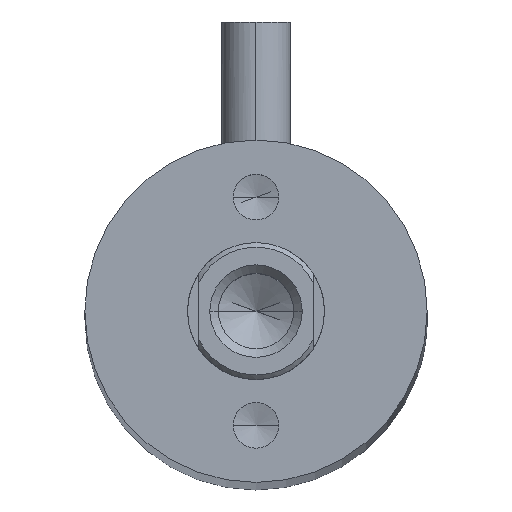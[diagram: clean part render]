
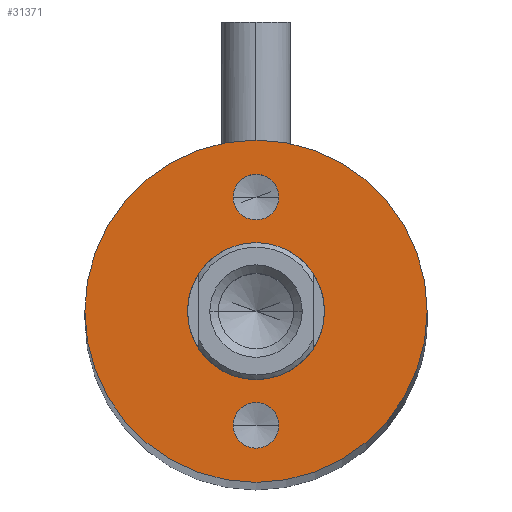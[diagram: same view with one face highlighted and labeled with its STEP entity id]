
A CAD part, top view. The second image highlights one B-rep face of the part: STEP entity #31371.
In plain terms, the highlighted planar face has unit normal (0, 0, 1).
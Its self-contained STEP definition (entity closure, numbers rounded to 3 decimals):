
#211 = DIRECTION ( 'NONE',  ( 1., 0., 0. ) ) ;
#239 = CIRCLE ( 'NONE', #42750, 1. ) ;
#240 = CARTESIAN_POINT ( 'NONE',  ( 1., -5., 190.6 ) ) ;
#724 = CIRCLE ( 'NONE', #9421, 1. ) ;
#1737 = EDGE_CURVE ( 'NONE', #18841, #3385, #37742, .T. ) ;
#1860 = CARTESIAN_POINT ( 'NONE',  ( 0., 0., 190.6 ) ) ;
#1903 = VERTEX_POINT ( 'NONE', #39515 ) ;
#2133 = CIRCLE ( 'NONE', #6013, 1. ) ;
#3385 = VERTEX_POINT ( 'NONE', #23049 ) ;
#3704 = ORIENTED_EDGE ( 'NONE', *, *, #13350, .T. ) ;
#3890 = DIRECTION ( 'NONE',  ( 0., 0., 1. ) ) ;
#5024 = DIRECTION ( 'NONE',  ( 0., 0., 1. ) ) ;
#6013 = AXIS2_PLACEMENT_3D ( 'NONE', #48346, #8730, #44148 ) ;
#6644 = FACE_BOUND ( 'NONE', #19864, .T. ) ;
#6943 = EDGE_CURVE ( 'NONE', #17374, #44598, #2133, .T. ) ;
#7237 = FACE_BOUND ( 'NONE', #21769, .T. ) ;
#7920 = EDGE_CURVE ( 'NONE', #44598, #17374, #239, .T. ) ;
#8730 = DIRECTION ( 'NONE',  ( 0., 0., 1. ) ) ;
#8747 = AXIS2_PLACEMENT_3D ( 'NONE', #28852, #12896, #29187 ) ;
#9421 = AXIS2_PLACEMENT_3D ( 'NONE', #27474, #31472, #23794 ) ;
#10873 = CIRCLE ( 'NONE', #36451, 3. ) ;
#11389 = DIRECTION ( 'NONE',  ( 1., 0., 0. ) ) ;
#11987 = DIRECTION ( 'NONE',  ( 1., 0., 0. ) ) ;
#12896 = DIRECTION ( 'NONE',  ( 0., 0., 1. ) ) ;
#13350 = EDGE_CURVE ( 'NONE', #29221, #43808, #16940, .T. ) ;
#16935 = EDGE_CURVE ( 'NONE', #1903, #29231, #17510, .T. ) ;
#16940 = CIRCLE ( 'NONE', #8747, 7.5 ) ;
#17251 = EDGE_CURVE ( 'NONE', #3385, #18841, #724, .T. ) ;
#17374 = VERTEX_POINT ( 'NONE', #40489 ) ;
#17510 = CIRCLE ( 'NONE', #29908, 3. ) ;
#18841 = VERTEX_POINT ( 'NONE', #23398 ) ;
#19774 = FACE_OUTER_BOUND ( 'NONE', #36787, .T. ) ;
#19789 = AXIS2_PLACEMENT_3D ( 'NONE', #41454, #5024, #45435 ) ;
#19864 = EDGE_LOOP ( 'NONE', ( #27672, #48192 ) ) ;
#20401 = DIRECTION ( 'NONE',  ( 0., 0., 1. ) ) ;
#21769 = EDGE_LOOP ( 'NONE', ( #49702, #26489 ) ) ;
#23049 = CARTESIAN_POINT ( 'NONE',  ( 1., 5., 190.6 ) ) ;
#23398 = CARTESIAN_POINT ( 'NONE',  ( -1., 5., 190.6 ) ) ;
#23601 = CARTESIAN_POINT ( 'NONE',  ( 0., 0., 190.6 ) ) ;
#23794 = DIRECTION ( 'NONE',  ( 1., 0., 0. ) ) ;
#25578 = DIRECTION ( 'NONE',  ( 0., 0., 1. ) ) ;
#26489 = ORIENTED_EDGE ( 'NONE', *, *, #6943, .F. ) ;
#27474 = CARTESIAN_POINT ( 'NONE',  ( 0., 5., 190.6 ) ) ;
#27672 = ORIENTED_EDGE ( 'NONE', *, *, #17251, .F. ) ;
#28279 = CARTESIAN_POINT ( 'NONE',  ( 0., 0., 190.6 ) ) ;
#28852 = CARTESIAN_POINT ( 'NONE',  ( 0., 0., 190.6 ) ) ;
#29187 = DIRECTION ( 'NONE',  ( 1., 0., 0. ) ) ;
#29208 = CARTESIAN_POINT ( 'NONE',  ( 7.5, 0., 190.6 ) ) ;
#29221 = VERTEX_POINT ( 'NONE', #29208 ) ;
#29231 = VERTEX_POINT ( 'NONE', #48862 ) ;
#29908 = AXIS2_PLACEMENT_3D ( 'NONE', #23601, #3890, #43101 ) ;
#30801 = ORIENTED_EDGE ( 'NONE', *, *, #38489, .F. ) ;
#31371 = ADVANCED_FACE ( 'NONE', ( #7237, #6644, #32895, #19774 ), #43404, .T. ) ;
#31472 = DIRECTION ( 'NONE',  ( 0., 0., 1. ) ) ;
#32895 = FACE_BOUND ( 'NONE', #47689, .T. ) ;
#35206 = ORIENTED_EDGE ( 'NONE', *, *, #44061, .T. ) ;
#35349 = DIRECTION ( 'NONE',  ( 0., 0., 1. ) ) ;
#36451 = AXIS2_PLACEMENT_3D ( 'NONE', #1860, #25578, #37410 ) ;
#36787 = EDGE_LOOP ( 'NONE', ( #35206, #3704 ) ) ;
#37410 = DIRECTION ( 'NONE',  ( 1., 0., 0. ) ) ;
#37742 = CIRCLE ( 'NONE', #39042, 1. ) ;
#38489 = EDGE_CURVE ( 'NONE', #29231, #1903, #10873, .T. ) ;
#39042 = AXIS2_PLACEMENT_3D ( 'NONE', #42630, #35349, #11389 ) ;
#39515 = CARTESIAN_POINT ( 'NONE',  ( 3., 0., 190.6 ) ) ;
#39727 = AXIS2_PLACEMENT_3D ( 'NONE', #28279, #20401, #11987 ) ;
#40489 = CARTESIAN_POINT ( 'NONE',  ( -1., -5., 190.6 ) ) ;
#41454 = CARTESIAN_POINT ( 'NONE',  ( 0., 0., 190.6 ) ) ;
#42533 = CARTESIAN_POINT ( 'NONE',  ( -7.5, 0., 190.6 ) ) ;
#42630 = CARTESIAN_POINT ( 'NONE',  ( 0., 5., 190.6 ) ) ;
#42750 = AXIS2_PLACEMENT_3D ( 'NONE', #48265, #43901, #211 ) ;
#43101 = DIRECTION ( 'NONE',  ( 1., 0., 0. ) ) ;
#43404 = PLANE ( 'NONE',  #39727 ) ;
#43808 = VERTEX_POINT ( 'NONE', #42533 ) ;
#43901 = DIRECTION ( 'NONE',  ( 0., 0., 1. ) ) ;
#44061 = EDGE_CURVE ( 'NONE', #43808, #29221, #50921, .T. ) ;
#44148 = DIRECTION ( 'NONE',  ( 1., 0., 0. ) ) ;
#44598 = VERTEX_POINT ( 'NONE', #240 ) ;
#45435 = DIRECTION ( 'NONE',  ( 1., 0., 0. ) ) ;
#47689 = EDGE_LOOP ( 'NONE', ( #30801, #48566 ) ) ;
#48192 = ORIENTED_EDGE ( 'NONE', *, *, #1737, .F. ) ;
#48265 = CARTESIAN_POINT ( 'NONE',  ( 0., -5., 190.6 ) ) ;
#48346 = CARTESIAN_POINT ( 'NONE',  ( 0., -5., 190.6 ) ) ;
#48566 = ORIENTED_EDGE ( 'NONE', *, *, #16935, .F. ) ;
#48862 = CARTESIAN_POINT ( 'NONE',  ( -3., 0., 190.6 ) ) ;
#49702 = ORIENTED_EDGE ( 'NONE', *, *, #7920, .F. ) ;
#50921 = CIRCLE ( 'NONE', #19789, 7.5 ) ;
